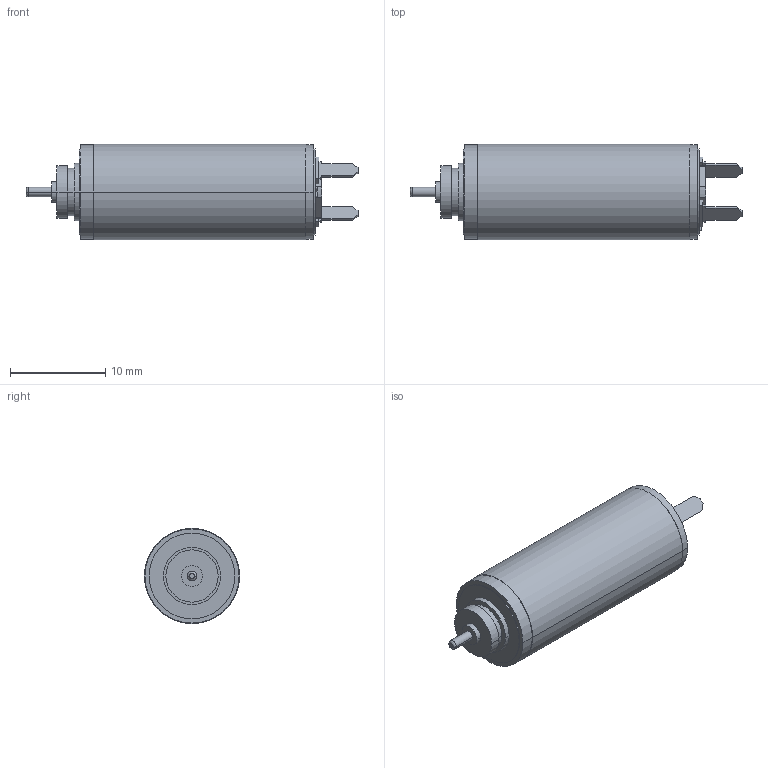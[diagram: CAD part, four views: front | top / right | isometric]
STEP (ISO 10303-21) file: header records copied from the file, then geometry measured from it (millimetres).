
FILE_DESCRIPTION((''),'2;1');
FILE_NAME('118392_RE10_EB_1_5W_SL_1WE','2016-10-07T',('mmagvisi'),(''),'CREO PARAMETRIC BY PTC INC, 2016050','CREO PARAMETRIC BY PTC INC, 2016050','');
FILE_SCHEMA(('CONFIG_CONTROL_DESIGN'));
Length unit declared in the file: millimetre
Products named in the file (1): 118392_RE10_EB_1_5W_SL_1WE
Bounding box: 34.9 x 10 x 10 mm (x, y, z)
Volume: 1987.8 mm3; surface area: 1139 mm2
Topology: 1 solids, 1 shells, 120 faces, 288 edges, 188 vertices
Faces by surface type: plane 79, cylinder 35, torus 4, bspline 2
Entity records: 4481 total; most frequent: CARTESIAN_POINT 626, DIRECTION 608, ORIENTED_EDGE 576, PRESENTATION_STYLE_ASSIGNMENT 289, STYLED_ITEM 289, CURVE_STYLE 288, EDGE_CURVE 288, VECTOR 204
